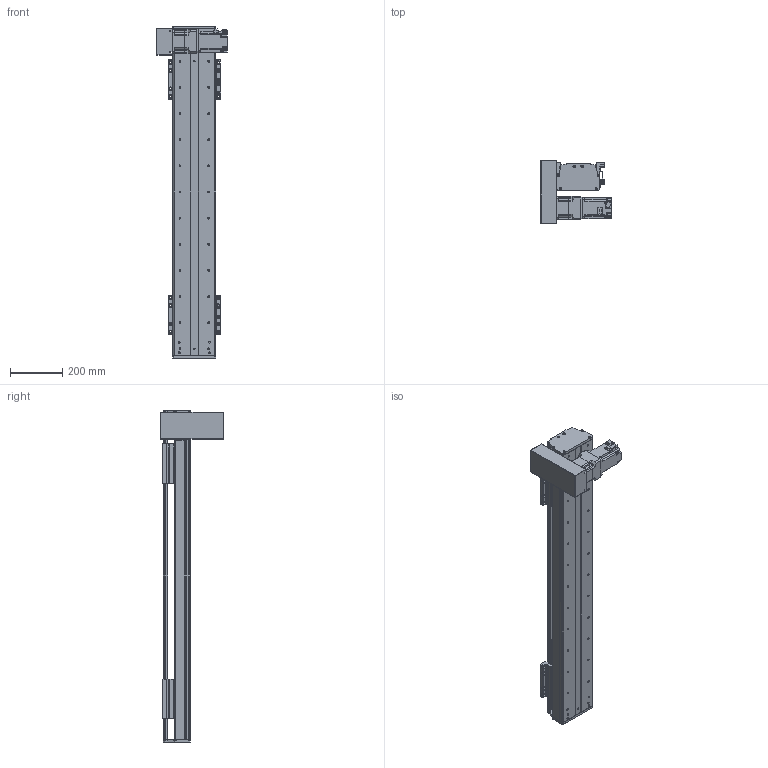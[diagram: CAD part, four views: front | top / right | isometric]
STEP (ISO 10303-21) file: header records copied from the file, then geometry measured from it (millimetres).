
FILE_DESCRIPTION(/* description */ (''),/* implementation_level */ '2;1');
FILE_NAME(/* name */ 'C:\Users\PC\Desktop\3D도면\STEP\DSB165-DL7G-W0900-R.stp',/* time_stamp */ '2018-06-25T15:36:20+09:00',/* author */ ('PC'),/* organization */ (''),/* preprocessor_version */ 'ST-DEVELOPER v16.5',/* originating_system */ 'Autodesk Inventor 2017',/* authorisation */ '');
FILE_SCHEMA (('AUTOMOTIVE_DESIGN { 1 0 10303 214 3 1 1 }'));
Length unit declared in the file: millimetre
Products named in the file (12): DSB165-L; DSR165-BASE_S; hg-kr73_; ab0901-p0401300102; 11-DBS165 BELT COVER; DBS165-COVER; DBS165-COVER_1; DBS165-UP COVER; DBS165-TABLE(MSA20S); DSR126-SENSOR DOG; SENSOR BRACKET(EE-SX674A); pm-y65_step
Assembly tree (16 placements, depth 2):
  DSB165-L
    DSR165-BASE_S
    hg-kr73_
    ab0901-p0401300102
    11-DBS165 BELT COVER
    DBS165-COVER
    DBS165-COVER_1
    DBS165-UP COVER
    DBS165-TABLE(MSA20S)  x2
    DSR126-SENSOR DOG
    pm-y65_step  x3
    SENSOR BRACKET(EE-SX674A)  x3
Bounding box: 270 x 242 x 1270 mm (x, y, z)
Volume: 8411017.4 mm3; surface area: 1945764.5 mm2
Topology: 17 solids, 22 shells, 1671 faces, 4485 edges, 2958 vertices
Faces by surface type: plane 926, cylinder 621, cone 112, sphere 8, torus 4
Full cylindrical faces by diameter (mm): 2.459 x20, 3.5 x6, 4.134 x42, 4.5 x18, 5 x27, 5.5 x36, 5.9 x4, 6 x8, 6.6 x14, 6.647 x40, 6.8 x1, 7 x4, 7.6 x4, 8 x1, 8.4 x1, 8.5 x24, 8.7 x1, 9.5 x32, 11 x6, 14 x16, 19 x1, 22 x1, 24 x1, 25 x1, 28 x1, 67 x1, 70 x2, 80 x1
Entity records: 35549 total; most frequent: DIRECTION 6284, CARTESIAN_POINT 6091, ORIENTED_EDGE 5542, EDGE_CURVE 2776, AXIS2_PLACEMENT_3D 2312, VERTEX_POINT 1981, EDGE_LOOP 1739, LINE 1660
